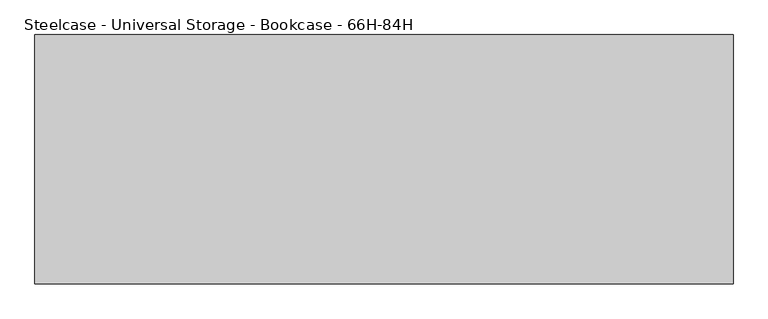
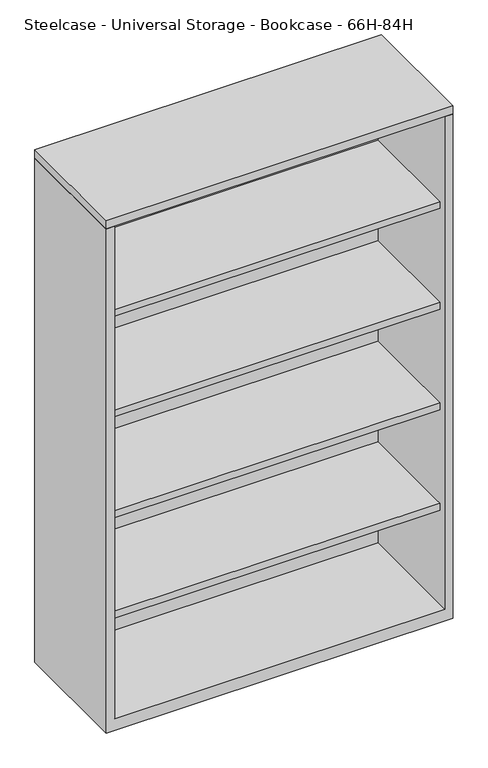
"""IFC4 building model written with IfcOpenShell, lengths in millimetres: furniture geometry, Steelcase - Universal Storage - Bookcase - 66H-84H : 65 1/2H x 42W."""

from ifc_helpers import new_model, si_unit, frame, origin, place, context, project, spatial, polyline, outline, extrude, faceted_brep, source, transform, mapped, element, save


def steelcase_universal_storage_bookcase_66h_84h_463b8e87(model_context):
    return source(origin(), model_context, "Body", "SolidModel", [
        extrude(outline(polyline([(1066.8, -98.552), (1066.8, -479.552), (0.0, -479.552), (0.0, -98.552), (1066.8, -98.552)])), frame((0.0, 0.0, 1639.8239516), z_axis=(0.0, 0.0, 1.0), x_axis=(1.0, 0.0, 0.0)), (0.0, 0.0, 1.0), 25.4000484),
        extrude(outline(polyline([(1041.4000242, -123.9520008), (1041.4000242, -454.0250121), (25.4000008, -454.0250121), (25.4000008, -123.9520008), (1041.4000242, -123.9520008)])), frame((0.0, 0.0, 344.424), z_axis=(0.0, 0.0, 1.0), x_axis=(1.0, 0.0, 0.0)), (0.0, 0.0, 1.0), 22.2249516),
        extrude(outline(polyline([(1041.4000242, -123.9520008), (1041.4000242, -454.0250121), (25.4000008, -454.0250121), (25.4000008, -123.9520008), (1041.4000242, -123.9520008)])), frame((0.0, 0.0, 671.4489516), z_axis=(0.0, 0.0, 1.0), x_axis=(1.0, 0.0, 0.0)), (0.0, 0.0, 1.0), 22.2249516),
        extrude(outline(polyline([(1041.4000242, -123.9520008), (1041.4000242, -454.0250121), (25.4000008, -454.0250121), (25.4000008, -123.9520008), (1041.4000242, -123.9520008)])), frame((0.0, 0.0, 998.4739031), z_axis=(0.0, 0.0, 1.0), x_axis=(1.0, 0.0, 0.0)), (0.0, 0.0, 1.0), 22.2249516),
        extrude(outline(polyline([(1041.4000242, -123.9520008), (1041.4000242, -454.0250121), (25.4000008, -454.0250121), (25.4000008, -123.9520008), (1041.4000242, -123.9520008)])), frame((0.0, 0.0, 1325.4988547), z_axis=(0.0, 0.0, 1.0), x_axis=(1.0, 0.0, 0.0)), (0.0, 0.0, 1.0), 22.2249516),
        faceted_brep([(25.4000008, -479.552, 38.1), (1041.4000242, -479.552, 38.1), (1041.4000242, -123.9520008, 38.1), (25.4000008, -123.9520008, 38.1), (1066.8, -98.552, 0.0), (1066.8, -479.552, 0.0), (0.0, -479.552, 0.0), (0.0, -98.552, 0.0), (0.0, -98.552, 1638.3), (1066.8, -98.552, 1638.3), (0.0, -479.552, 1638.3), (1066.8, -479.552, 1638.3), (1041.4000242, -479.552, 1638.3), (25.4000008, -479.552, 1638.3), (1041.4000242, -123.9520008, 1638.3), (25.4000008, -123.9520008, 1638.3)], [[[0, 1, 2, 3]], [[4, 5, 6, 7]], [[4, 7, 8, 9]], [[8, 7, 6, 10]], [[10, 6, 5, 11, 12, 1, 0, 13]], [[11, 5, 4, 9]], [[14, 12, 11, 9, 8, 10, 13, 15]], [[12, 14, 2, 1]], [[15, 13, 0, 3]], [[14, 15, 3, 2]]]),
    ])


if __name__ == "__main__":
    model = new_model("IFC4")
    model_context = context("Model", 3, world=origin())
    ifc_project = project(units=[si_unit("LENGTHUNIT", "METRE", prefix="MILLI")], contexts=[model_context])
    site = spatial("IfcSite", under=ifc_project)
    building = spatial("IfcBuilding", under=site)
    placement = place(None, origin())
    steelcase_universal_storage_bookcase_66h_84h_shape = steelcase_universal_storage_bookcase_66h_84h_463b8e87(model_context)
    element("IfcFurniture", 1, ObjectType="Steelcase - Universal Storage - Bookcase - 66H-84H : 65 1/2H x 42W", at=placement, inside=building, context=model_context, shape_type="MappedRepresentation", body=[
        mapped(steelcase_universal_storage_bookcase_66h_84h_shape, transform((0.0, 0.0, 0.0), x_axis=(1.0, 0.0, 0.0), y_axis=(0.0, 1.0, 0.0), z_axis=(0.0, 0.0, 1.0))),
    ])
    save(model, "model.ifc")
